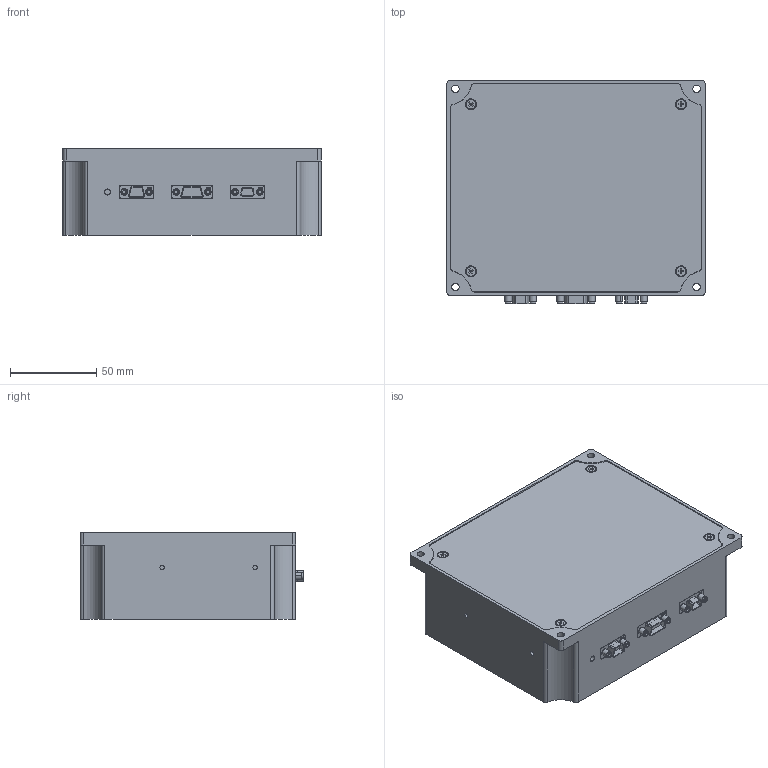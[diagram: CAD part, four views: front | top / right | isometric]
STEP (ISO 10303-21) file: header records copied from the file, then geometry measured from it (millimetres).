
FILE_DESCRIPTION (( 'STEP AP203' ), '1' );
FILE_NAME ('E80.D3S-P1揤萇諷秶ん.STEP', '2025-04-07T05:28:31', ( 'China' ), ( 'Home' ), 'SwSTEP 2.0', 'SolidWorks 2016', '' );
FILE_SCHEMA (( 'CONFIG_CONTROL_DESIGN' ));
Length unit declared in the file: millimetre
Products named in the file (1): E80.D3S-P1揤萇諷秶ん
Bounding box: 150 x 129.8 x 50 mm (x, y, z)
Surface area: 69607.7 mm2 (no closed solid volume)
Topology: 0 solids, 17 shells, 312 faces, 1477 edges, 1196 vertices
Faces by surface type: cylinder 144, plane 139, cone 25, bspline 4
Entity records: 17683 total; most frequent: CARTESIAN_POINT 6166, DIRECTION 2217, ORIENTED_EDGE 2130, EDGE_CURVE 1477, VERTEX_POINT 1196, VECTOR 821, LINE 821, AXIS2_PLACEMENT_3D 698
